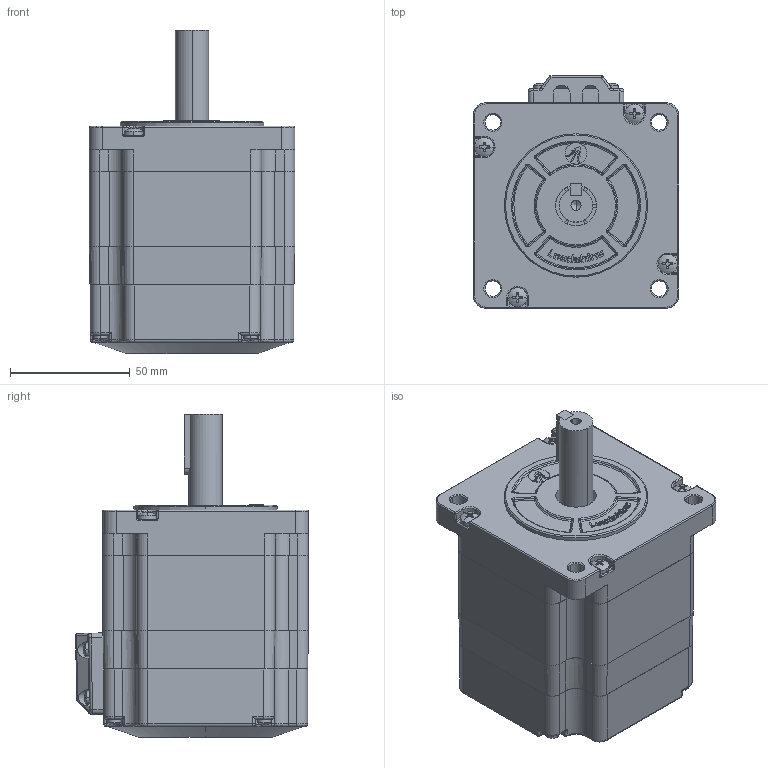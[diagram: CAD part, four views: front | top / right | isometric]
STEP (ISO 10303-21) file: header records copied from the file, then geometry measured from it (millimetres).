
FILE_DESCRIPTION (( 'STEP AP203' ), '1' );
FILE_NAME ('CS-M23435_3D.STEP', '2019-12-23T01:07:19', ( 'hwtest' ), ( 'Microsoft' ), 'SwSTEP 2.0', 'SolidWorks 2014', '' );
FILE_SCHEMA (( 'CONFIG_CONTROL_DESIGN' ));
Length unit declared in the file: millimetre
Products named in the file (1): CS-M23435_3D
Bounding box: 86 x 97.46 x 135.2 mm (x, y, z)
Volume: 369760.9 mm3; surface area: 137278.6 mm2
Topology: 30 solids, 30 shells, 1700 faces, 4503 edges, 2902 vertices
Faces by surface type: plane 715, cylinder 629, bspline 256, sphere 60, cone 40
Entity records: 62099 total; most frequent: CARTESIAN_POINT 21014, ORIENTED_EDGE 8936, DIRECTION 8119, EDGE_CURVE 4468, AXIS2_PLACEMENT_3D 2905, VERTEX_POINT 2893, LINE 2309, VECTOR 2309
